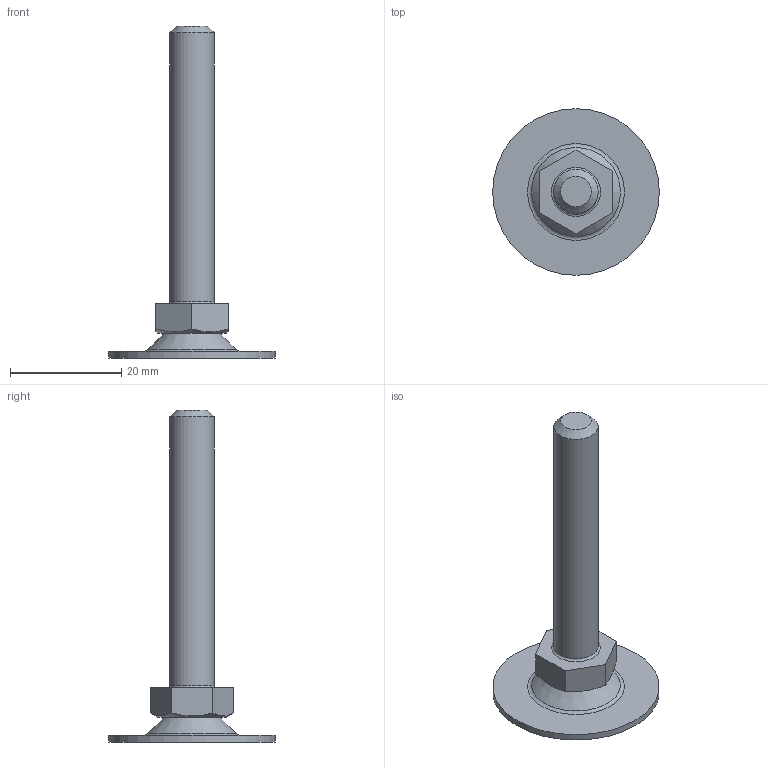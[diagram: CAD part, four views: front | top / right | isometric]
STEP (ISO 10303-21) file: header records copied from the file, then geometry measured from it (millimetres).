
FILE_DESCRIPTION(('STEP AP203'), '1');
FILE_NAME('A00050.1030816', '', ('UNSPECIFIED'), ('UNSPECIFIED'), 'C3D Converter', 'C3D Toolkit', '');
FILE_SCHEMA(('CONFIG_CONTROL_DESIGN'));
Length unit declared in the file: millimetre
Products named in the file (4): A00050.1030850; A00050.1030
Assembly tree (3 placements, depth 2):
  A00050.1030850
    A00050.1030
    (unnamed)
    (unnamed)
Bounding box: 30 x 30 x 59.78 mm (x, y, z)
Volume: 4215.2 mm3; surface area: 3802.9 mm2
Topology: 3 solids, 3 shells, 58 faces, 130 edges, 82 vertices
Faces by surface type: plane 28, torus 8, bspline 8, cone 7, cylinder 6, sphere 1
Full cylindrical faces by diameter (mm): 3.3 x1, 4 x1, 4.5 x1, 8 x2, 30 x1
Entity records: 2171 total; most frequent: CARTESIAN_POINT 784, DIRECTION 242, ORIENTED_EDGE 214, EDGE_CURVE 107, AXIS2_PLACEMENT_3D 95, EDGE_LOOP 86, VERTEX_POINT 81, ADVANCED_FACE 58
